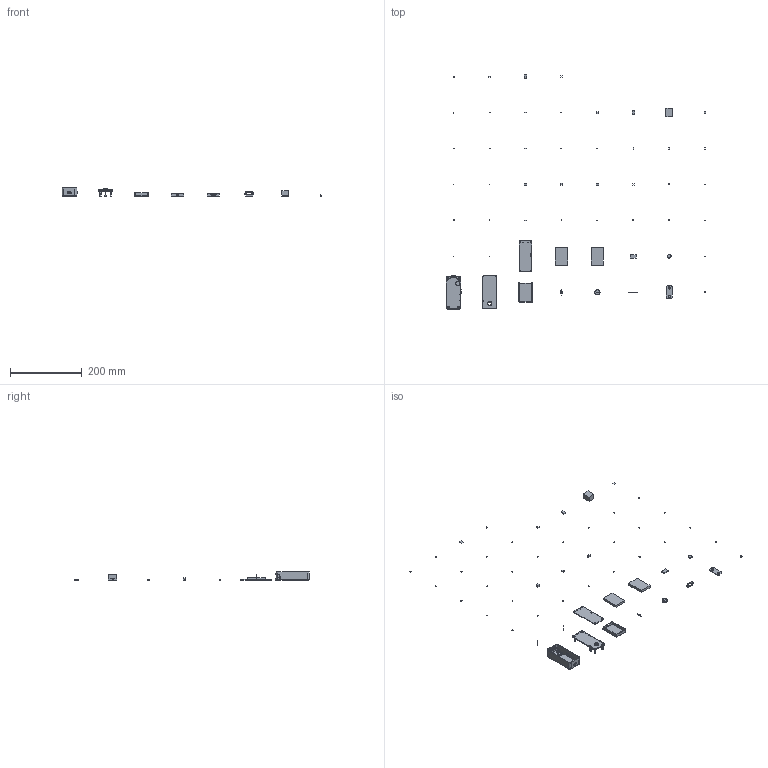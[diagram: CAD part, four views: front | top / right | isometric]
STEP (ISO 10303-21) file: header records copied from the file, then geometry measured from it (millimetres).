
FILE_DESCRIPTION(('Open CASCADE Model'),'2;1');
FILE_NAME('Open CASCADE Shape Model','2026-09-08T14:30:22',('Author'),( 'Open CASCADE'),'Open CASCADE STEP processor 7.9','Open CASCADE 7.9' ,'Unknown');
FILE_SCHEMA(('AUTOMOTIVE_DESIGN { 1 0 10303 214 1 1 1 1 }'));
Length unit declared in the file: millimetre
Products named in the file (1): COMPOUND
Bounding box: 723.25 x 652.35 x 22.4 mm (x, y, z)
Volume: 63779.3 mm3; surface area: 59194.9 mm2
Topology: 52 solids, 52 shells, 686 faces, 1605 edges, 1064 vertices
Faces by surface type: plane 491, cylinder 183, torus 9, bspline 3
Full cylindrical faces by diameter (mm): 0.75 x4, 0.9 x10, 1 x45, 1.3 x1, 1.4 x4, 1.6 x6, 1.8 x2, 2.2 x10, 2.4 x2, 3.6 x4, 4 x2, 4.2 x4, 4.6 x4, 6.3 x4, 9 x1, 10 x1, 11 x2, 11.5 x1, 14.6 x1
Entity records: 44134 total; most frequent: CARTESIAN_POINT 11151, DIRECTION 6071, LINE 3650, VECTOR 3650, ORIENTED_EDGE 3210, PCURVE 3210, DEFINITIONAL_REPRESENTATION 3210, EDGE_CURVE 1605
